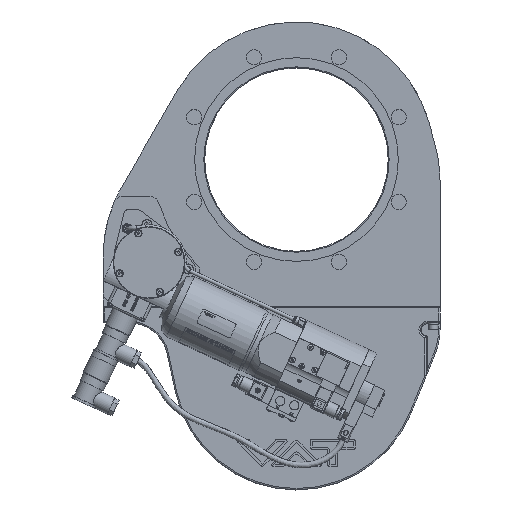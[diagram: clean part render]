
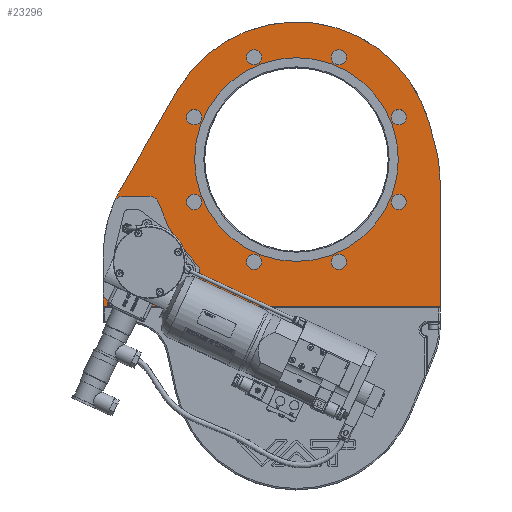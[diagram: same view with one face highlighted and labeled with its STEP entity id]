
A CAD part, top view. The second image highlights one B-rep face of the part: STEP entity #23296.
In plain terms, the highlighted planar face has unit normal (0, 0, 1).
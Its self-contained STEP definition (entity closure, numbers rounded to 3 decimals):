
#15834=LINE('',#76328,#19470);
#15839=LINE('',#76343,#19475);
#15843=LINE('',#76355,#19479);
#15846=LINE('',#76361,#19482);
#15849=LINE('',#76367,#19485);
#15855=LINE('',#76434,#19491);
#15856=LINE('',#76442,#19492);
#15857=LINE('',#76446,#19493);
#19470=VECTOR('',#63549,1.);
#19475=VECTOR('',#63562,1.);
#19479=VECTOR('',#63574,1.);
#19482=VECTOR('',#63579,1.);
#19485=VECTOR('',#63584,1.);
#19491=VECTOR('',#63652,1.);
#19492=VECTOR('',#63659,1.);
#19493=VECTOR('',#63662,1.);
#23296=ADVANCED_FACE('',(#27870,#27871,#27872,#27873,#27874,#27875,#27876,
#27877,#27878,#27879),#26145,.F.);
#26145=PLANE('',#59110);
#27870=FACE_BOUND('',#29633,.T.);
#27871=FACE_BOUND('',#29634,.T.);
#27872=FACE_BOUND('',#29635,.T.);
#27873=FACE_BOUND('',#29636,.T.);
#27874=FACE_BOUND('',#29637,.T.);
#27875=FACE_BOUND('',#29638,.T.);
#27876=FACE_BOUND('',#29639,.T.);
#27877=FACE_BOUND('',#29640,.T.);
#27878=FACE_BOUND('',#29641,.T.);
#27879=FACE_BOUND('',#29642,.T.);
#29633=EDGE_LOOP('',(#33515));
#29634=EDGE_LOOP('',(#33516));
#29635=EDGE_LOOP('',(#33517));
#29636=EDGE_LOOP('',(#33518));
#29637=EDGE_LOOP('',(#33519));
#29638=EDGE_LOOP('',(#33520));
#29639=EDGE_LOOP('',(#33521));
#29640=EDGE_LOOP('',(#33522));
#29641=EDGE_LOOP('',(#33523));
#29642=EDGE_LOOP('',(#33524,#33525,#33526,#33527,#33528,#33529,#33530,#33531,
#33532,#33533,#33534,#33535,#33536,#33537,#33538,#33539,#33540));
#33515=ORIENTED_EDGE('',*,*,#50913,.F.);
#33516=ORIENTED_EDGE('',*,*,#50957,.T.);
#33517=ORIENTED_EDGE('',*,*,#50958,.T.);
#33518=ORIENTED_EDGE('',*,*,#50959,.T.);
#33519=ORIENTED_EDGE('',*,*,#50960,.T.);
#33520=ORIENTED_EDGE('',*,*,#50961,.T.);
#33521=ORIENTED_EDGE('',*,*,#50962,.T.);
#33522=ORIENTED_EDGE('',*,*,#50963,.T.);
#33523=ORIENTED_EDGE('',*,*,#50964,.T.);
#33524=ORIENTED_EDGE('',*,*,#50938,.T.);
#33525=ORIENTED_EDGE('',*,*,#50965,.T.);
#33526=ORIENTED_EDGE('',*,*,#50966,.T.);
#33527=ORIENTED_EDGE('',*,*,#50967,.T.);
#33528=ORIENTED_EDGE('',*,*,#50968,.T.);
#33529=ORIENTED_EDGE('',*,*,#50969,.T.);
#33530=ORIENTED_EDGE('',*,*,#50970,.T.);
#33531=ORIENTED_EDGE('',*,*,#50971,.T.);
#33532=ORIENTED_EDGE('',*,*,#50972,.T.);
#33533=ORIENTED_EDGE('',*,*,#50973,.T.);
#33534=ORIENTED_EDGE('',*,*,#50933,.T.);
#33535=ORIENTED_EDGE('',*,*,#50930,.T.);
#33536=ORIENTED_EDGE('',*,*,#50927,.T.);
#33537=ORIENTED_EDGE('',*,*,#50924,.T.);
#33538=ORIENTED_EDGE('',*,*,#50921,.T.);
#33539=ORIENTED_EDGE('',*,*,#50918,.T.);
#33540=ORIENTED_EDGE('',*,*,#50914,.T.);
#46378=VERTEX_POINT('',#76326);
#46379=VERTEX_POINT('',#76329);
#46380=VERTEX_POINT('',#76330);
#46383=VERTEX_POINT('',#76338);
#46385=VERTEX_POINT('',#76344);
#46387=VERTEX_POINT('',#76350);
#46389=VERTEX_POINT('',#76356);
#46391=VERTEX_POINT('',#76362);
#46393=VERTEX_POINT('',#76368);
#46397=VERTEX_POINT('',#76378);
#46414=VERTEX_POINT('',#76417);
#46415=VERTEX_POINT('',#76419);
#46416=VERTEX_POINT('',#76421);
#46417=VERTEX_POINT('',#76423);
#46418=VERTEX_POINT('',#76425);
#46419=VERTEX_POINT('',#76427);
#46420=VERTEX_POINT('',#76429);
#46421=VERTEX_POINT('',#76431);
#46422=VERTEX_POINT('',#76433);
#46423=VERTEX_POINT('',#76435);
#46424=VERTEX_POINT('',#76437);
#46425=VERTEX_POINT('',#76439);
#46426=VERTEX_POINT('',#76441);
#46427=VERTEX_POINT('',#76443);
#46428=VERTEX_POINT('',#76445);
#46429=VERTEX_POINT('',#76447);
#50913=EDGE_CURVE('',#46378,#46378,#57375,.T.);
#50914=EDGE_CURVE('',#46379,#46380,#15834,.T.);
#50918=EDGE_CURVE('',#46383,#46379,#57376,.T.);
#50921=EDGE_CURVE('',#46385,#46383,#15839,.T.);
#50924=EDGE_CURVE('',#46387,#46385,#57378,.T.);
#50927=EDGE_CURVE('',#46389,#46387,#15843,.T.);
#50930=EDGE_CURVE('',#46391,#46389,#15846,.T.);
#50933=EDGE_CURVE('',#46393,#46391,#15849,.T.);
#50938=EDGE_CURVE('',#46380,#46397,#57380,.T.);
#50957=EDGE_CURVE('',#46414,#46414,#57398,.T.);
#50958=EDGE_CURVE('',#46415,#46415,#57399,.T.);
#50959=EDGE_CURVE('',#46416,#46416,#57400,.T.);
#50960=EDGE_CURVE('',#46417,#46417,#57401,.T.);
#50961=EDGE_CURVE('',#46418,#46418,#57402,.T.);
#50962=EDGE_CURVE('',#46419,#46419,#57403,.T.);
#50963=EDGE_CURVE('',#46420,#46420,#57404,.T.);
#50964=EDGE_CURVE('',#46421,#46421,#57405,.T.);
#50965=EDGE_CURVE('',#46397,#46422,#57406,.T.);
#50966=EDGE_CURVE('',#46422,#46423,#15855,.T.);
#50967=EDGE_CURVE('',#46423,#46424,#57407,.T.);
#50968=EDGE_CURVE('',#46424,#46425,#57408,.T.);
#50969=EDGE_CURVE('',#46425,#46426,#57409,.T.);
#50970=EDGE_CURVE('',#46426,#46427,#15856,.T.);
#50971=EDGE_CURVE('',#46427,#46428,#57410,.T.);
#50972=EDGE_CURVE('',#46428,#46429,#15857,.T.);
#50973=EDGE_CURVE('',#46429,#46393,#57411,.T.);
#57375=CIRCLE('',#59062,111.);
#57376=CIRCLE('',#59065,150.);
#57378=CIRCLE('',#59069,150.);
#57380=CIRCLE('',#59075,150.);
#57398=CIRCLE('',#59096,8.335);
#57399=CIRCLE('',#59097,8.335);
#57400=CIRCLE('',#59098,8.335);
#57401=CIRCLE('',#59099,8.335);
#57402=CIRCLE('',#59100,8.335);
#57403=CIRCLE('',#59101,8.335);
#57404=CIRCLE('',#59102,8.335);
#57405=CIRCLE('',#59103,8.335);
#57406=CIRCLE('',#59104,10.);
#57407=CIRCLE('',#59105,10.);
#57408=CIRCLE('',#59106,157.5);
#57409=CIRCLE('',#59107,10.);
#57410=CIRCLE('',#59108,10.);
#57411=CIRCLE('',#59109,10.);
#59062=AXIS2_PLACEMENT_3D('',#76325,#63545,#63546);
#59065=AXIS2_PLACEMENT_3D('',#76337,#63555,#63556);
#59069=AXIS2_PLACEMENT_3D('',#76349,#63567,#63568);
#59075=AXIS2_PLACEMENT_3D('',#76377,#63591,#63592);
#59096=AXIS2_PLACEMENT_3D('',#76416,#63634,#63635);
#59097=AXIS2_PLACEMENT_3D('',#76418,#63636,#63637);
#59098=AXIS2_PLACEMENT_3D('',#76420,#63638,#63639);
#59099=AXIS2_PLACEMENT_3D('',#76422,#63640,#63641);
#59100=AXIS2_PLACEMENT_3D('',#76424,#63642,#63643);
#59101=AXIS2_PLACEMENT_3D('',#76426,#63644,#63645);
#59102=AXIS2_PLACEMENT_3D('',#76428,#63646,#63647);
#59103=AXIS2_PLACEMENT_3D('',#76430,#63648,#63649);
#59104=AXIS2_PLACEMENT_3D('',#76432,#63650,#63651);
#59105=AXIS2_PLACEMENT_3D('',#76436,#63653,#63654);
#59106=AXIS2_PLACEMENT_3D('',#76438,#63655,#63656);
#59107=AXIS2_PLACEMENT_3D('',#76440,#63657,#63658);
#59108=AXIS2_PLACEMENT_3D('',#76444,#63660,#63661);
#59109=AXIS2_PLACEMENT_3D('',#76448,#63663,#63664);
#59110=AXIS2_PLACEMENT_3D('',#76449,#63665,#63666);
#63545=DIRECTION('',(0.,0.,1.));
#63546=DIRECTION('',(1.,0.,0.));
#63549=DIRECTION('',(-0.5,-0.866,0.));
#63555=DIRECTION('',(0.,0.,1.));
#63556=DIRECTION('',(1.,0.,0.));
#63562=DIRECTION('',(-0.259,0.966,0.));
#63567=DIRECTION('',(0.,0.,1.));
#63568=DIRECTION('',(1.,0.,0.));
#63574=DIRECTION('',(0.,1.,0.));
#63579=DIRECTION('',(1.,0.,0.));
#63584=DIRECTION('',(0.,-1.,0.));
#63591=DIRECTION('',(0.,0.,1.));
#63592=DIRECTION('',(1.,0.,0.));
#63634=DIRECTION('',(0.,0.,-1.));
#63635=DIRECTION('',(-1.,0.,0.));
#63636=DIRECTION('',(0.,0.,-1.));
#63637=DIRECTION('',(-1.,0.,0.));
#63638=DIRECTION('',(0.,0.,-1.));
#63639=DIRECTION('',(-1.,0.,0.));
#63640=DIRECTION('',(0.,0.,-1.));
#63641=DIRECTION('',(-1.,0.,0.));
#63642=DIRECTION('',(0.,0.,-1.));
#63643=DIRECTION('',(-1.,0.,0.));
#63644=DIRECTION('',(0.,0.,-1.));
#63645=DIRECTION('',(-1.,0.,0.));
#63646=DIRECTION('',(0.,0.,-1.));
#63647=DIRECTION('',(-1.,0.,0.));
#63648=DIRECTION('',(0.,0.,-1.));
#63649=DIRECTION('',(-1.,0.,0.));
#63650=DIRECTION('',(0.,0.,-1.));
#63651=DIRECTION('',(1.,0.,0.));
#63652=DIRECTION('',(1.,0.,0.));
#63653=DIRECTION('',(0.,0.,-1.));
#63654=DIRECTION('',(1.,0.,0.));
#63655=DIRECTION('',(0.,0.,1.));
#63656=DIRECTION('',(1.,0.,0.));
#63657=DIRECTION('',(0.,0.,-1.));
#63658=DIRECTION('',(1.,0.,0.));
#63659=DIRECTION('',(0.,-1.,0.));
#63660=DIRECTION('',(0.,0.,-1.));
#63661=DIRECTION('',(1.,0.,0.));
#63662=DIRECTION('',(-1.,0.,0.));
#63663=DIRECTION('',(0.,0.,-1.));
#63664=DIRECTION('',(1.,0.,0.));
#63665=DIRECTION('',(0.,0.,-1.));
#63666=DIRECTION('',(-1.,0.,0.));
#76325=CARTESIAN_POINT('',(0.,0.,0.));
#76326=CARTESIAN_POINT('',(111.,0.,0.));
#76328=CARTESIAN_POINT('',(-190.578,-30.09,0.));
#76329=CARTESIAN_POINT('',(-129.904,75.,0.));
#76330=CARTESIAN_POINT('',(-190.578,-30.09,0.));
#76337=CARTESIAN_POINT('',(0.,0.,0.));
#76338=CARTESIAN_POINT('',(144.889,38.823,0.));
#76343=CARTESIAN_POINT('',(144.889,38.823,0.));
#76344=CARTESIAN_POINT('',(151.389,14.565,0.));
#76349=CARTESIAN_POINT('',(6.5,-24.258,0.));
#76350=CARTESIAN_POINT('',(156.5,-24.258,0.));
#76355=CARTESIAN_POINT('',(156.5,-24.258,0.));
#76356=CARTESIAN_POINT('',(156.5,-160.,0.));
#76361=CARTESIAN_POINT('',(156.5,-160.,0.));
#76362=CARTESIAN_POINT('',(-210.674,-160.,0.));
#76367=CARTESIAN_POINT('',(-210.674,-160.,0.));
#76368=CARTESIAN_POINT('',(-210.674,-145.,0.));
#76377=CARTESIAN_POINT('',(-60.674,-105.09,0.));
#76378=CARTESIAN_POINT('',(-198.572,-46.065,0.));
#76416=CARTESIAN_POINT('',(111.466,46.171,0.));
#76417=CARTESIAN_POINT('',(103.131,46.171,0.));
#76418=CARTESIAN_POINT('',(111.466,-46.171,0.));
#76419=CARTESIAN_POINT('',(103.131,-46.171,0.));
#76420=CARTESIAN_POINT('',(46.171,-111.466,0.));
#76421=CARTESIAN_POINT('',(37.836,-111.466,0.));
#76422=CARTESIAN_POINT('',(-46.171,-111.466,0.));
#76423=CARTESIAN_POINT('',(-54.506,-111.466,0.));
#76424=CARTESIAN_POINT('',(-111.466,-46.171,0.));
#76425=CARTESIAN_POINT('',(-119.801,-46.171,0.));
#76426=CARTESIAN_POINT('',(-111.466,46.171,0.));
#76427=CARTESIAN_POINT('',(-119.801,46.171,0.));
#76428=CARTESIAN_POINT('',(-46.171,111.466,0.));
#76429=CARTESIAN_POINT('',(-54.506,111.466,0.));
#76430=CARTESIAN_POINT('',(46.171,111.466,0.));
#76431=CARTESIAN_POINT('',(37.836,111.466,0.));
#76432=CARTESIAN_POINT('',(-189.379,-50.,0.));
#76433=CARTESIAN_POINT('',(-189.379,-40.,0.));
#76434=CARTESIAN_POINT('',(-189.379,-40.,0.));
#76435=CARTESIAN_POINT('',(-159.863,-40.,0.));
#76436=CARTESIAN_POINT('',(-159.863,-50.,0.));
#76437=CARTESIAN_POINT('',(-150.319,-47.015,0.));
#76438=CARTESIAN_POINT('',(0.,0.,0.));
#76439=CARTESIAN_POINT('',(-108.768,-113.911,0.));
#76440=CARTESIAN_POINT('',(-115.674,-121.144,0.));
#76441=CARTESIAN_POINT('',(-105.674,-121.144,0.));
#76442=CARTESIAN_POINT('',(-105.674,-121.144,0.));
#76443=CARTESIAN_POINT('',(-105.674,-145.,0.));
#76444=CARTESIAN_POINT('',(-115.674,-145.,0.));
#76445=CARTESIAN_POINT('',(-115.674,-155.,0.));
#76446=CARTESIAN_POINT('',(-115.674,-155.,0.));
#76447=CARTESIAN_POINT('',(-200.674,-155.,0.));
#76448=CARTESIAN_POINT('',(-200.674,-145.,0.));
#76449=CARTESIAN_POINT('',(0.,0.,0.));
